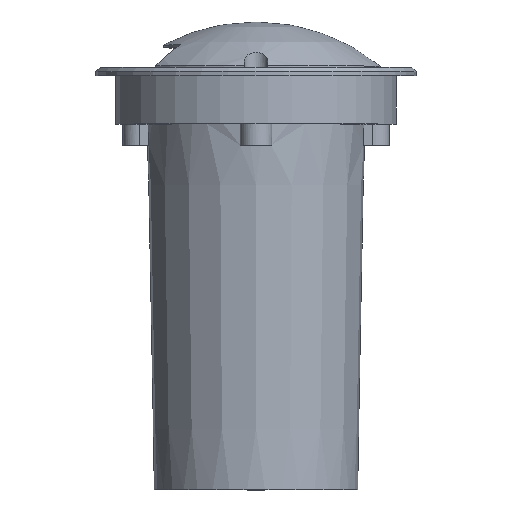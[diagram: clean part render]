
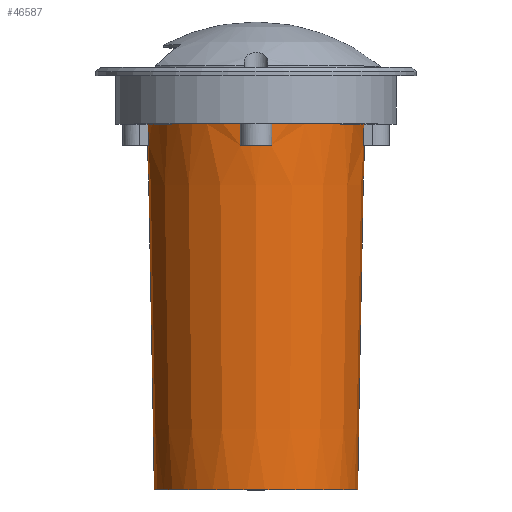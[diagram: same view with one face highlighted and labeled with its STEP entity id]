
A CAD part, top view. The second image highlights one B-rep face of the part: STEP entity #46587.
In plain terms, the highlighted conical face has half-angle 1.081 degrees and reference radius 38.25 mm.
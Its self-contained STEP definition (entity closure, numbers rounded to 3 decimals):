
#44079=CARTESIAN_POINT('',(0.,-150.,0.));
#44080=DIRECTION('',(0.,-1.,0.));
#44081=DIRECTION('',(0.707,0.,-0.707));
#44082=AXIS2_PLACEMENT_3D('',#44079,#44080,#44081);
#44084=CARTESIAN_POINT('',(0.,-150.,0.));
#44085=DIRECTION('',(0.,-1.,0.));
#44086=DIRECTION('',(-0.707,0.,0.707));
#44087=AXIS2_PLACEMENT_3D('',#44084,#44085,#44086);
#44089=DIRECTION('',(-0.013,1.,-0.013));
#44090=VECTOR('',#44089,132.524);
#44091=CARTESIAN_POINT('',(-26.163,-150.,-26.163));
#44092=LINE('',#44091,#44090);
#44093=DIRECTION('',(0.013,1.,-0.013));
#44094=VECTOR('',#44093,132.524);
#44095=CARTESIAN_POINT('',(26.163,-150.,-26.163));
#44096=LINE('',#44095,#44094);
#44112=CARTESIAN_POINT('',(0.,-17.5,0.));
#44113=DIRECTION('',(0.,-1.,0.));
#44114=DIRECTION('',(-0.989,0.,-0.145));
#44115=AXIS2_PLACEMENT_3D('',#44112,#44113,#44114);
#44150=CARTESIAN_POINT('',(0.,-17.5,0.));
#44151=DIRECTION('',(0.,-1.,0.));
#44152=DIRECTION('',(0.707,0.,-0.707));
#44153=AXIS2_PLACEMENT_3D('',#44150,#44151,#44152);
#44178=CARTESIAN_POINT('',(0.,-17.5,0.));
#44179=DIRECTION('',(0.,-1.,0.));
#44180=DIRECTION('',(0.989,0.,0.145));
#44181=AXIS2_PLACEMENT_3D('',#44178,#44179,#44180);
#44206=CARTESIAN_POINT('',(0.,-17.5,0.));
#44207=DIRECTION('',(0.,-1.,0.));
#44208=DIRECTION('',(-0.145,0.,0.989));
#44209=AXIS2_PLACEMENT_3D('',#44206,#44207,#44208);
#44211=CARTESIAN_POINT('',(0.,-17.5,0.));
#44212=DIRECTION('',(0.,-1.,0.));
#44213=DIRECTION('',(-0.707,0.,0.707));
#44214=AXIS2_PLACEMENT_3D('',#44211,#44212,#44213);
#45876=CARTESIAN_POINT('',(0.,-25.2,0.));
#45877=DIRECTION('',(0.,-1.,0.));
#45878=DIRECTION('',(0.99,0.,-0.14));
#45879=AXIS2_PLACEMENT_3D('',#45876,#45877,#45878);
#45915=CARTESIAN_POINT('',(38.935,-25.2,5.733));
#45916=CARTESIAN_POINT('',(38.984,-22.633,
5.733));
#45917=CARTESIAN_POINT('',(39.032,-20.067,
5.74));
#45918=CARTESIAN_POINT('',(39.081,-17.5,5.74));
#45932=CARTESIAN_POINT('',(39.11,-17.5,-5.535));
#45933=CARTESIAN_POINT('',(39.062,-20.067,
-5.532));
#45934=CARTESIAN_POINT('',(39.014,-22.633,
-5.525));
#45935=CARTESIAN_POINT('',(38.965,-25.2,-5.522));
#45945=CARTESIAN_POINT('',(0.,-25.2,0.));
#45946=DIRECTION('',(0.,-1.,0.));
#45947=DIRECTION('',(-0.99,0.,0.14));
#45948=AXIS2_PLACEMENT_3D('',#45945,#45946,#45947);
#45984=CARTESIAN_POINT('',(-38.935,-25.2,-5.733));
#45985=CARTESIAN_POINT('',(-38.984,-22.633,
-5.733));
#45986=CARTESIAN_POINT('',(-39.032,-20.067,
-5.74));
#45987=CARTESIAN_POINT('',(-39.081,-17.5,-5.74));
#46001=CARTESIAN_POINT('',(-39.11,-17.5,5.535));
#46002=CARTESIAN_POINT('',(-39.062,-20.067,
5.532));
#46003=CARTESIAN_POINT('',(-39.014,-22.633,
5.525));
#46004=CARTESIAN_POINT('',(-38.965,-25.2,5.522));
#46014=CARTESIAN_POINT('',(0.,-25.2,0.));
#46015=DIRECTION('',(0.,-1.,0.));
#46016=DIRECTION('',(0.14,0.,0.99));
#46017=AXIS2_PLACEMENT_3D('',#46014,#46015,#46016);
#46053=CARTESIAN_POINT('',(-5.733,-25.2,38.935));
#46054=CARTESIAN_POINT('',(-5.733,-22.633,
38.984));
#46055=CARTESIAN_POINT('',(-5.74,-20.067,
39.032));
#46056=CARTESIAN_POINT('',(-5.74,-17.5,39.081));
#46070=CARTESIAN_POINT('',(5.535,-17.5,39.11));
#46071=CARTESIAN_POINT('',(5.532,-20.067,
39.062));
#46072=CARTESIAN_POINT('',(5.525,-22.633,
39.014));
#46073=CARTESIAN_POINT('',(5.522,-25.2,38.965));
#46075=CARTESIAN_POINT('',(26.163,-150.,-26.163));
#46076=CARTESIAN_POINT('',(27.931,-17.5,-27.931));
#46077=VERTEX_POINT('',#46075);
#46078=VERTEX_POINT('',#46076);
#46079=CARTESIAN_POINT('',(-26.163,-150.,26.163));
#46080=CARTESIAN_POINT('',(-26.163,-150.,-26.163));
#46081=VERTEX_POINT('',#46079);
#46082=VERTEX_POINT('',#46080);
#46083=CARTESIAN_POINT('',(-27.931,-17.5,-27.931));
#46084=VERTEX_POINT('',#46083);
#46085=CARTESIAN_POINT('',(-39.081,-17.5,-5.737));
#46086=VERTEX_POINT('',#46085);
#46087=VERTEX_POINT('',#45984);
#46088=CARTESIAN_POINT('',(-38.965,-25.2,5.524));
#46089=VERTEX_POINT('',#46088);
#46090=VERTEX_POINT('',#46001);
#46091=CARTESIAN_POINT('',(-5.737,-17.5,39.081));
#46092=CARTESIAN_POINT('',(-27.931,-17.5,27.931));
#46093=VERTEX_POINT('',#46091);
#46094=VERTEX_POINT('',#46092);
#46095=VERTEX_POINT('',#46053);
#46096=CARTESIAN_POINT('',(5.524,-25.2,38.965));
#46097=VERTEX_POINT('',#46096);
#46098=VERTEX_POINT('',#46070);
#46099=CARTESIAN_POINT('',(39.081,-17.5,5.737));
#46100=VERTEX_POINT('',#46099);
#46101=VERTEX_POINT('',#45915);
#46102=CARTESIAN_POINT('',(38.965,-25.2,-5.524));
#46103=VERTEX_POINT('',#46102);
#46104=VERTEX_POINT('',#45932);
#46544=CARTESIAN_POINT('',(0.,-83.75,0.));
#46545=DIRECTION('',(0.,1.,0.));
#46546=DIRECTION('',(0.707,0.,-0.707));
#46547=AXIS2_PLACEMENT_3D('',#46544,#46545,#46546);
#46548=CONICAL_SURFACE('',#46547,38.25,1.081);
#46550=ORIENTED_EDGE('',*,*,#46549,.F.);
#46552=ORIENTED_EDGE('',*,*,#46551,.T.);
#46554=ORIENTED_EDGE('',*,*,#46553,.T.);
#46556=ORIENTED_EDGE('',*,*,#46555,.T.);
#46558=ORIENTED_EDGE('',*,*,#46557,.F.);
#46560=ORIENTED_EDGE('',*,*,#46559,.F.);
#46562=ORIENTED_EDGE('',*,*,#46561,.F.);
#46564=ORIENTED_EDGE('',*,*,#46563,.F.);
#46566=ORIENTED_EDGE('',*,*,#46565,.F.);
#46568=ORIENTED_EDGE('',*,*,#46567,.F.);
#46570=ORIENTED_EDGE('',*,*,#46569,.F.);
#46572=ORIENTED_EDGE('',*,*,#46571,.F.);
#46574=ORIENTED_EDGE('',*,*,#46573,.F.);
#46576=ORIENTED_EDGE('',*,*,#46575,.F.);
#46578=ORIENTED_EDGE('',*,*,#46577,.F.);
#46580=ORIENTED_EDGE('',*,*,#46579,.F.);
#46582=ORIENTED_EDGE('',*,*,#46581,.F.);
#46584=ORIENTED_EDGE('',*,*,#46583,.F.);
#46585=EDGE_LOOP('',(#46550,#46552,#46554,#46556,#46558,#46560,#46562,#46564,
#46566,#46568,#46570,#46572,#46574,#46576,#46578,#46580,#46582,#46584));
#46586=FACE_OUTER_BOUND('',#46585,.F.);
#46587=ADVANCED_FACE('',(#46586),#46548,.T.);
#44083=CIRCLE('',#44082,37.);
#44088=CIRCLE('',#44087,37.);
#44116=CIRCLE('',#44115,39.5);
#44154=CIRCLE('',#44153,39.5);
#44182=CIRCLE('',#44181,39.5);
#44210=CIRCLE('',#44209,39.5);
#44215=CIRCLE('',#44214,39.5);
#45880=CIRCLE('',#45879,39.355);
#45919=B_SPLINE_CURVE_WITH_KNOTS('',3,(#45915,#45916,#45917,#45918),
.UNSPECIFIED.,.F.,.F.,(4,4),(0.,1.),.UNSPECIFIED.);
#45936=B_SPLINE_CURVE_WITH_KNOTS('',3,(#45932,#45933,#45934,#45935),
.UNSPECIFIED.,.F.,.F.,(4,4),(0.,1.),.UNSPECIFIED.);
#45949=CIRCLE('',#45948,39.355);
#45988=B_SPLINE_CURVE_WITH_KNOTS('',3,(#45984,#45985,#45986,#45987),
.UNSPECIFIED.,.F.,.F.,(4,4),(0.,1.),.UNSPECIFIED.);
#46005=B_SPLINE_CURVE_WITH_KNOTS('',3,(#46001,#46002,#46003,#46004),
.UNSPECIFIED.,.F.,.F.,(4,4),(0.,1.),.UNSPECIFIED.);
#46018=CIRCLE('',#46017,39.355);
#46057=B_SPLINE_CURVE_WITH_KNOTS('',3,(#46053,#46054,#46055,#46056),
.UNSPECIFIED.,.F.,.F.,(4,4),(0.,1.),.UNSPECIFIED.);
#46074=B_SPLINE_CURVE_WITH_KNOTS('',3,(#46070,#46071,#46072,#46073),
.UNSPECIFIED.,.F.,.F.,(4,4),(0.,1.),.UNSPECIFIED.);
#46549=EDGE_CURVE('',#46077,#46078,#44096,.T.);
#46551=EDGE_CURVE('',#46077,#46081,#44083,.T.);
#46553=EDGE_CURVE('',#46081,#46082,#44088,.T.);
#46555=EDGE_CURVE('',#46082,#46084,#44092,.T.);
#46557=EDGE_CURVE('',#46086,#46084,#44116,.T.);
#46559=EDGE_CURVE('',#46087,#46086,#45988,.T.);
#46561=EDGE_CURVE('',#46089,#46087,#45949,.T.);
#46563=EDGE_CURVE('',#46090,#46089,#46005,.T.);
#46565=EDGE_CURVE('',#46094,#46090,#44215,.T.);
#46567=EDGE_CURVE('',#46093,#46094,#44210,.T.);
#46569=EDGE_CURVE('',#46095,#46093,#46057,.T.);
#46571=EDGE_CURVE('',#46097,#46095,#46018,.T.);
#46573=EDGE_CURVE('',#46098,#46097,#46074,.T.);
#46575=EDGE_CURVE('',#46100,#46098,#44182,.T.);
#46577=EDGE_CURVE('',#46101,#46100,#45919,.T.);
#46579=EDGE_CURVE('',#46103,#46101,#45880,.T.);
#46581=EDGE_CURVE('',#46104,#46103,#45936,.T.);
#46583=EDGE_CURVE('',#46078,#46104,#44154,.T.);
